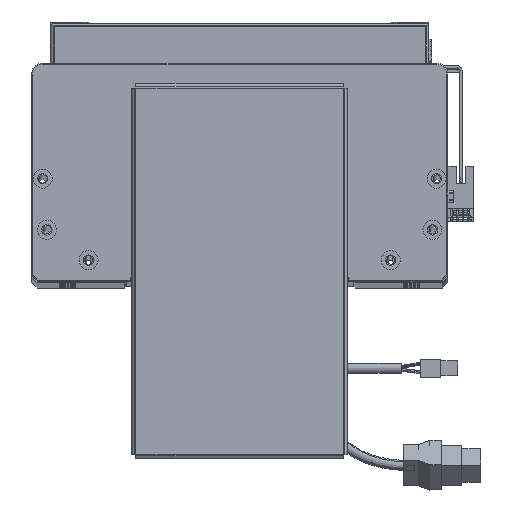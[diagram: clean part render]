
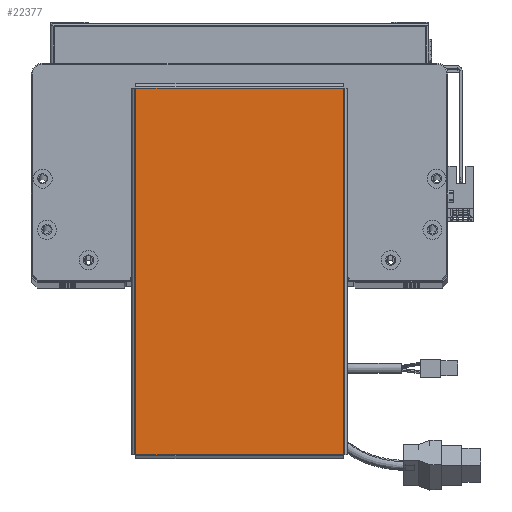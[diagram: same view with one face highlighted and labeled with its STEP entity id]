
A CAD part, top view. The second image highlights one B-rep face of the part: STEP entity #22377.
In plain terms, the highlighted planar face has unit normal (0, 0, 1).
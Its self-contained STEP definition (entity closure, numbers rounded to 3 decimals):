
#2447 = DIRECTION ( 'NONE',  ( 0., 0., 1. ) ) ;
#3333 = DIRECTION ( 'NONE',  ( 1., 0., 0. ) ) ;
#6014 = ORIENTED_EDGE ( 'NONE', *, *, #49806, .T. ) ;
#9439 = CARTESIAN_POINT ( 'NONE',  ( 96.763, 54.763, 0. ) ) ;
#10310 = ORIENTED_EDGE ( 'NONE', *, *, #23010, .T. ) ;
#10559 = DIRECTION ( 'NONE',  ( 0., 1., 0. ) ) ;
#11150 = EDGE_CURVE ( 'NONE', #51451, #50304, #30947, .T. ) ;
#15014 = LINE ( 'NONE', #29182, #40963 ) ;
#16807 = VECTOR ( 'NONE', #10559, 1000. ) ;
#17954 = CARTESIAN_POINT ( 'NONE',  ( -96.763, 54.763, 0. ) ) ;
#18680 = DIRECTION ( 'NONE',  ( -1., 0., 0. ) ) ;
#19230 = VERTEX_POINT ( 'NONE', #67407 ) ;
#22377 = ADVANCED_FACE ( 'NONE', ( #34393 ), #29726, .T. ) ;
#23010 = EDGE_CURVE ( 'NONE', #53546, #51451, #15014, .T. ) ;
#25582 = CARTESIAN_POINT ( 'NONE',  ( -96.763, 54.793, 0. ) ) ;
#27000 = AXIS2_PLACEMENT_3D ( 'NONE', #29266, #2447, #3333 ) ;
#29182 = CARTESIAN_POINT ( 'NONE',  ( 96.793, 54.763, 0. ) ) ;
#29266 = CARTESIAN_POINT ( 'NONE',  ( 0., 0., 0. ) ) ;
#29726 = PLANE ( 'NONE',  #27000 ) ;
#30947 = LINE ( 'NONE', #25582, #66099 ) ;
#31440 = DIRECTION ( 'NONE',  ( 0., -1., 0. ) ) ;
#31520 = DIRECTION ( 'NONE',  ( 1., 0., 0. ) ) ;
#32266 = CARTESIAN_POINT ( 'NONE',  ( 96.763, -54.793, 0. ) ) ;
#32408 = ORIENTED_EDGE ( 'NONE', *, *, #56226, .T. ) ;
#34393 = FACE_OUTER_BOUND ( 'NONE', #69051, .T. ) ;
#40963 = VECTOR ( 'NONE', #18680, 1000. ) ;
#49067 = VECTOR ( 'NONE', #31520, 1000. ) ;
#49806 = EDGE_CURVE ( 'NONE', #19230, #53546, #55320, .T. ) ;
#50304 = VERTEX_POINT ( 'NONE', #66183 ) ;
#51451 = VERTEX_POINT ( 'NONE', #17954 ) ;
#53546 = VERTEX_POINT ( 'NONE', #9439 ) ;
#55320 = LINE ( 'NONE', #32266, #16807 ) ;
#55775 = LINE ( 'NONE', #68034, #49067 ) ;
#56226 = EDGE_CURVE ( 'NONE', #50304, #19230, #55775, .T. ) ;
#66099 = VECTOR ( 'NONE', #31440, 1000. ) ;
#66183 = CARTESIAN_POINT ( 'NONE',  ( -96.763, -54.763, 0. ) ) ;
#67038 = ORIENTED_EDGE ( 'NONE', *, *, #11150, .T. ) ;
#67407 = CARTESIAN_POINT ( 'NONE',  ( 96.763, -54.763, 0. ) ) ;
#68034 = CARTESIAN_POINT ( 'NONE',  ( -96.793, -54.763, 0. ) ) ;
#69051 = EDGE_LOOP ( 'NONE', ( #32408, #6014, #10310, #67038 ) ) ;
